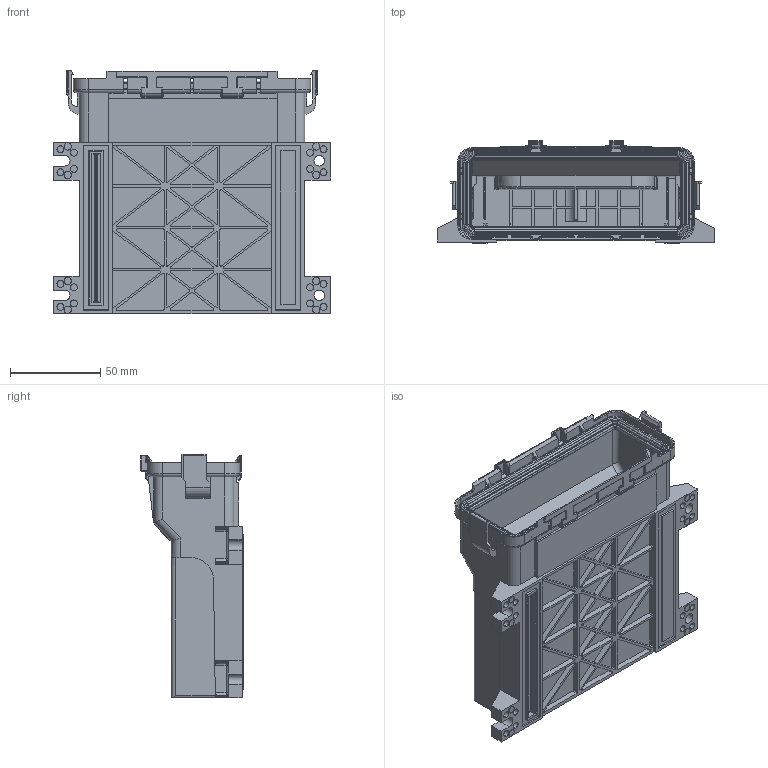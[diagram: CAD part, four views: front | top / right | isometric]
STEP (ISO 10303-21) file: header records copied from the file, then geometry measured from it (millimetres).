
FILE_DESCRIPTION((''),'2;1');
FILE_NAME('5810130042_ICE30_ASM','2008-07-08T',('eake'),(''),'PRO/ENGINEER BY PARAMETRIC TECHNOLOGY CORPORATION, 2005451','PRO/ENGINEER BY PARAMETRIC TECHNOLOGY CORPORATION, 2005451','');
FILE_SCHEMA(('CONFIG_CONTROL_DESIGN'));
Length unit declared in the file: inch
Products named in the file (6): 4828770160_ICE30; 463089918X_SEAL30; 4630899190_HSINK_EX; 5810130041_EPOXY; 4741109047; 5810130042_ICE30_ASM
Assembly tree (6 placements, depth 2):
  5810130042_ICE30_ASM
    4828770160_ICE30
    463089918X_SEAL30
    4630899190_HSINK_EX
    5810130041_EPOXY  x2
    4741109047
Bounding box: 153.16 x 56.52 x 134.62 mm (x, y, z)
Volume: 168889.3 mm3; surface area: 144924.2 mm2
Topology: 6 solids, 6 shells, 2211 faces, 5428 edges, 3326 vertices
Faces by surface type: plane 955, cylinder 827, torus 186, sphere 79, bspline 72, extrusion 72, cone 20
Entity records: 74346 total; most frequent: CARTESIAN_POINT 22518, DIRECTION 10851, ORIENTED_EDGE 10736, EDGE_CURVE 5368, AXIS2_PLACEMENT_3D 3775, VECTOR 3301, VERTEX_POINT 3286, LINE 3229
